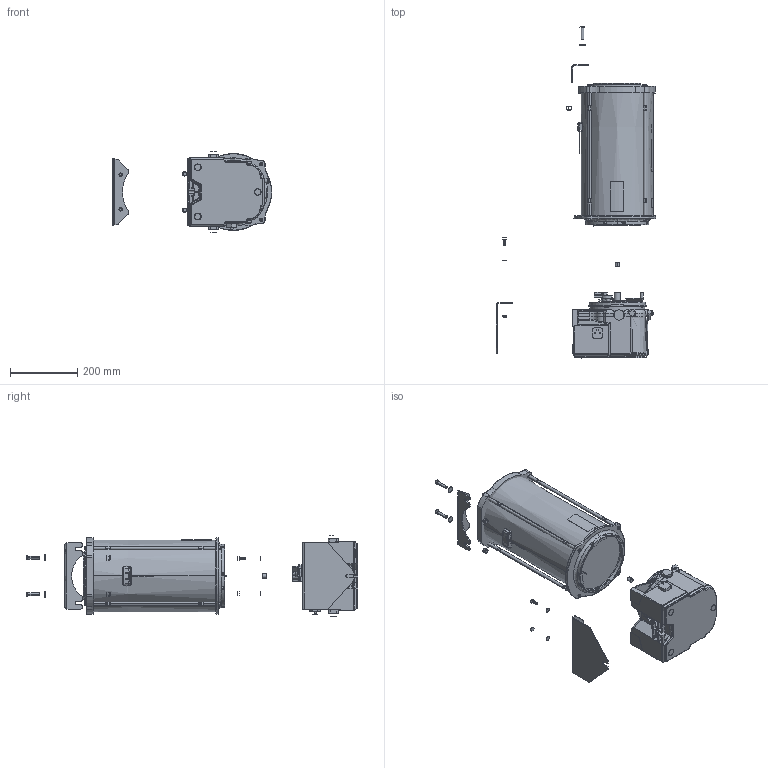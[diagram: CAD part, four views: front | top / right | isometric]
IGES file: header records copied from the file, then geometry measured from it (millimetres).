
Start section:  PTC IGES file: 96g500-en-m.igs
Global section: file name: 96g500-en-m.igs; native system: Creo Parametric by PTC Inc.; preprocessor: 2021072; author: qtmwp1; organization: Unknown; date: 20220214.142842; units: inch
Bounding box: 472.89 x 984.87 x 241 mm (x, y, z)
Surface area: 1065184.2 mm2 (no closed solid volume)
Topology: 0 solids, 0 shells, 1089 faces, 5707 edges, 5705 vertices
Faces by surface type: revolution 621, bspline 464, extrusion 4
